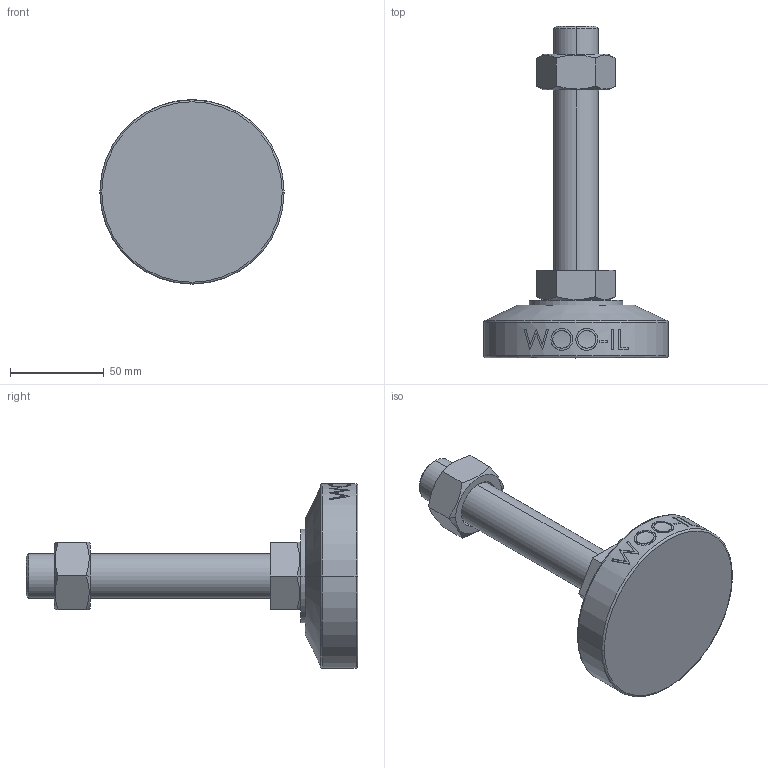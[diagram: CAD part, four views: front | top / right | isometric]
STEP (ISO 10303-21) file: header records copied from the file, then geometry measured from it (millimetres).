
FILE_DESCRIPTION (( 'STEP AP214' ), '1' );
FILE_NAME ('MFB98-M24-130.step', '2022-06-27T08:36:38', ( '' ), ( '' ), 'SwSTEP 2.0', 'SolidWorks 2019', '' );
FILE_SCHEMA (( 'AUTOMOTIVE_DESIGN' ));
Length unit declared in the file: millimetre
Products named in the file (1): MFB98-M24-130
Bounding box: 98 x 176.5 x 98 mm (x, y, z)
Volume: 284336.7 mm3; surface area: 40594.7 mm2
Topology: 3 solids, 3 shells, 97 faces, 225 edges, 144 vertices
Faces by surface type: plane 47, cylinder 16, bspline 16, cone 14, torus 4
Entity records: 4451 total; most frequent: CARTESIAN_POINT 2321, ORIENTED_EDGE 450, DIRECTION 385, EDGE_CURVE 225, VERTEX_POINT 144, AXIS2_PLACEMENT_3D 144, EDGE_LOOP 109, ADVANCED_FACE 97
